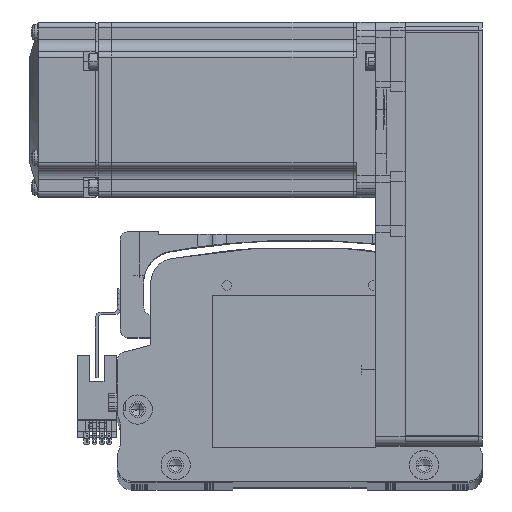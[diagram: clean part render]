
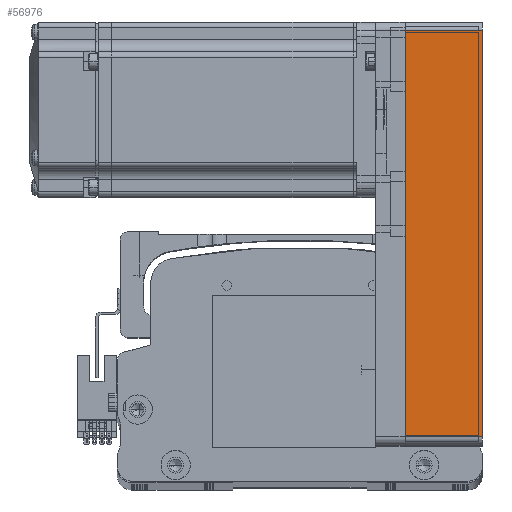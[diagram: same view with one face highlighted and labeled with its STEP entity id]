
A CAD part, top view. The second image highlights one B-rep face of the part: STEP entity #56976.
In plain terms, the highlighted planar face has unit normal (0, 0, 1) as drawn and (0, 1, 0) by its records, which use the part's own axes.
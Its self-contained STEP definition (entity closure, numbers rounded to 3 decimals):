
#2767 = VERTEX_POINT ( 'NONE', #84014 ) ;
#5222 = VERTEX_POINT ( 'NONE', #28767 ) ;
#5233 = ORIENTED_EDGE ( 'NONE', *, *, #61600, .T. ) ;
#6416 = VECTOR ( 'NONE', #7337, 1000. ) ;
#7101 = VERTEX_POINT ( 'NONE', #52608 ) ;
#7337 = DIRECTION ( 'NONE',  ( 0., 0., -1. ) ) ;
#7997 = DIRECTION ( 'NONE',  ( -1., 0., 0. ) ) ;
#9044 = FACE_OUTER_BOUND ( 'NONE', #20913, .T. ) ;
#9746 = DIRECTION ( 'NONE',  ( 0., -1., 0. ) ) ;
#10118 = LINE ( 'NONE', #48215, #25864 ) ;
#11936 = CARTESIAN_POINT ( 'NONE',  ( -69.5, 30., 0. ) ) ;
#18619 = DIRECTION ( 'NONE',  ( -1., 0., 0. ) ) ;
#20913 = EDGE_LOOP ( 'NONE', ( #86895, #39754, #66582, #5233 ) ) ;
#23670 = VERTEX_POINT ( 'NONE', #11936 ) ;
#24168 = EDGE_CURVE ( 'NONE', #7101, #2767, #33932, .T. ) ;
#24282 = LINE ( 'NONE', #46988, #6416 ) ;
#25627 = CARTESIAN_POINT ( 'NONE',  ( 72.5, 30., 26.5 ) ) ;
#25864 = VECTOR ( 'NONE', #7997, 1000. ) ;
#28767 = CARTESIAN_POINT ( 'NONE',  ( 69.5, 30., 0. ) ) ;
#31186 = VECTOR ( 'NONE', #31822, 1000. ) ;
#31822 = DIRECTION ( 'NONE',  ( 0., 0., 1. ) ) ;
#33932 = LINE ( 'NONE', #25627, #67460 ) ;
#36162 = PLANE ( 'NONE',  #81344 ) ;
#39754 = ORIENTED_EDGE ( 'NONE', *, *, #83963, .T. ) ;
#46988 = CARTESIAN_POINT ( 'NONE',  ( 69.5, 30., 26.5 ) ) ;
#48215 = CARTESIAN_POINT ( 'NONE',  ( 72.5, 30., 0. ) ) ;
#49949 = CARTESIAN_POINT ( 'NONE',  ( 72.5, 30., 26.5 ) ) ;
#52608 = CARTESIAN_POINT ( 'NONE',  ( 69.5, 30., 26.5 ) ) ;
#56709 = DIRECTION ( 'NONE',  ( 1., 0., 0. ) ) ;
#56873 = EDGE_CURVE ( 'NONE', #5222, #23670, #10118, .T. ) ;
#56976 = ADVANCED_FACE ( 'NONE', ( #9044 ), #36162, .F. ) ;
#61600 = EDGE_CURVE ( 'NONE', #7101, #5222, #24282, .T. ) ;
#66582 = ORIENTED_EDGE ( 'NONE', *, *, #24168, .F. ) ;
#67460 = VECTOR ( 'NONE', #18619, 1000. ) ;
#71928 = CARTESIAN_POINT ( 'NONE',  ( -69.5, 30., 26.5 ) ) ;
#81344 = AXIS2_PLACEMENT_3D ( 'NONE', #49949, #9746, #56709 ) ;
#83963 = EDGE_CURVE ( 'NONE', #23670, #2767, #84596, .T. ) ;
#84014 = CARTESIAN_POINT ( 'NONE',  ( -69.5, 30., 26.5 ) ) ;
#84596 = LINE ( 'NONE', #71928, #31186 ) ;
#86895 = ORIENTED_EDGE ( 'NONE', *, *, #56873, .T. ) ;
